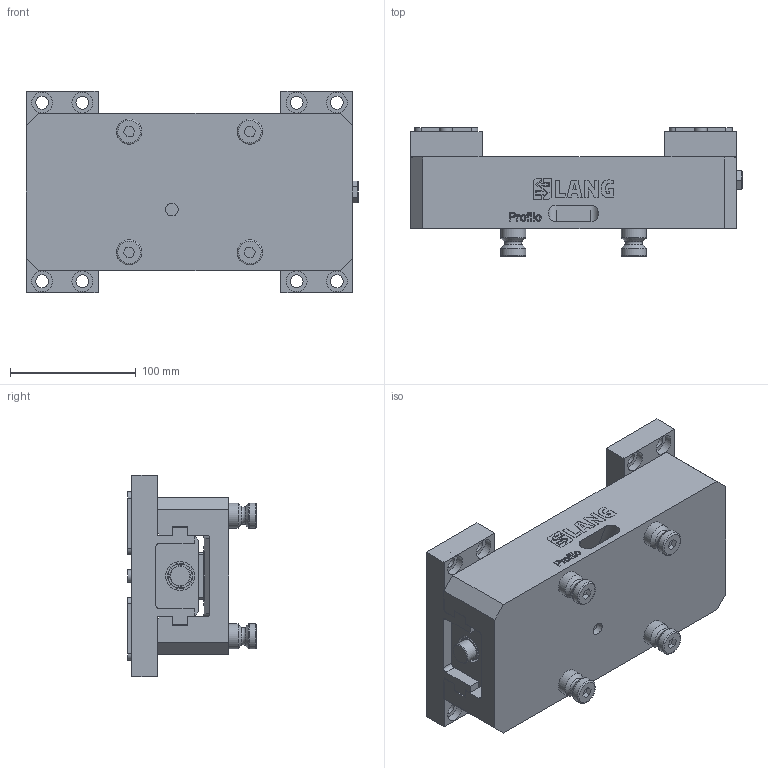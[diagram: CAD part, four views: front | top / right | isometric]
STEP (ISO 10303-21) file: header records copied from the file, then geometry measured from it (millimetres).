
FILE_DESCRIPTION (( 'STEP AP214' ), '1' );
FILE_NAME ('49150-125.STEP', '2020-03-13T14:21:53', ( '' ), ( '' ), 'SwSTEP 2.0', 'SolidWorks 2019', '' );
FILE_SCHEMA (( 'AUTOMOTIVE_DESIGN' ));
Length unit declared in the file: millimetre
Products named in the file (3): Profilo_49150-125; 49125; 49150-125
Assembly tree (3 placements, depth 2):
  49150-125
    Profilo_49150-125
    49125  x2
Bounding box: 264 x 102.51 x 160 mm (x, y, z)
Volume: 1732007.3 mm3; surface area: 261511.9 mm2
Topology: 40 solids, 40 shells, 768 faces, 1899 edges, 1246 vertices
Faces by surface type: plane 541, bspline 102, cylinder 86, cone 27, torus 12
Full cylindrical faces by diameter (mm): 8.5 x8, 10 x1, 10.2 x8, 16 x8, 16.5 x9, 20 x12, 23 x4
Entity records: 31267 total; most frequent: CARTESIAN_POINT 7664, ORIENTED_EDGE 3246, DIRECTION 2732, EDGE_CURVE 1623, VECTOR 1258, LINE 1258, VERTEX_POINT 1109, EDGE_LOOP 830
